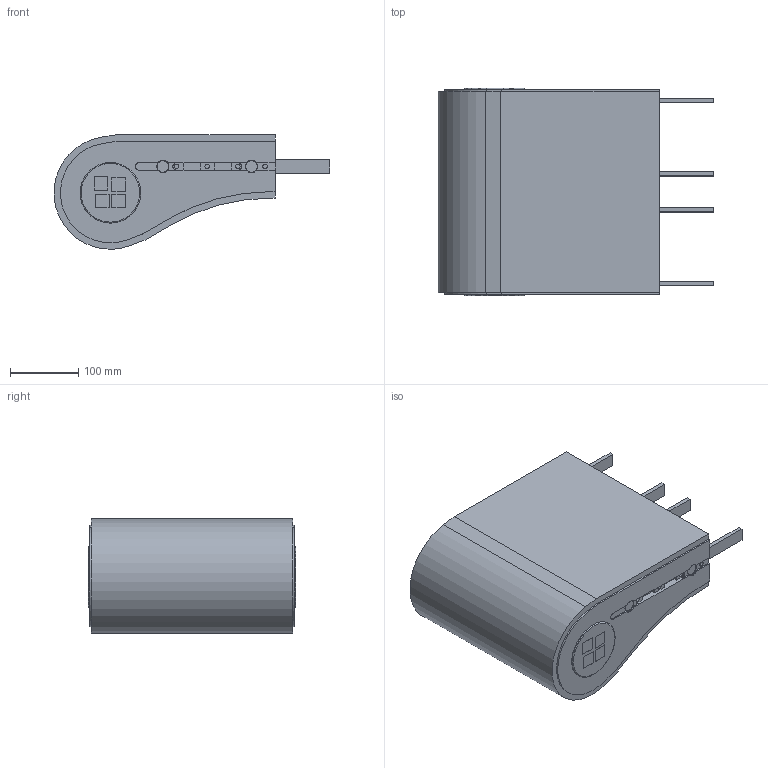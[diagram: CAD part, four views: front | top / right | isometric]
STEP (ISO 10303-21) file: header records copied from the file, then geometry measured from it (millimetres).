
FILE_DESCRIPTION(/* description */ ('Umlenkeinheit F300'),/* implementation_level */ '2;1');
FILE_NAME(/* name */ 'T:\tli0\3D-Daten für Website\F300\Umlenkeinheit\FBEJ A300_M_85369.stp',/* time_stamp */ '2026-05-28T12:38:14+02:00',/* author */ ('Tli0'),/* organization */ ('modular automation GmbH'),/* preprocessor_version */ 'ST-DEVELOPER v18.1',/* originating_system */ 'Autodesk Inventor 2021',/* authorisation */ '');
FILE_SCHEMA (('AUTOMOTIVE_DESIGN { 1 0 10303 214 3 1 1 }'));
Length unit declared in the file: millimetre
Products named in the file (1): FBEJ A300_M
Bounding box: 404.58 x 304.5 x 168.01 mm (x, y, z)
Volume: 12179266.3 mm3; surface area: 817368.3 mm2
Topology: 2 solids, 5 shells, 199 faces, 495 edges, 330 vertices
Faces by surface type: plane 146, cylinder 47, cone 4, torus 2
Full cylindrical faces by diameter (mm): 6.647 x16, 10 x1, 17 x2, 86 x2, 89 x2
Entity records: 6142 total; most frequent: CARTESIAN_POINT 1057, DIRECTION 995, ORIENTED_EDGE 988, EDGE_CURVE 495, LINE 363, VECTOR 363, VERTEX_POINT 330, AXIS2_PLACEMENT_3D 316
